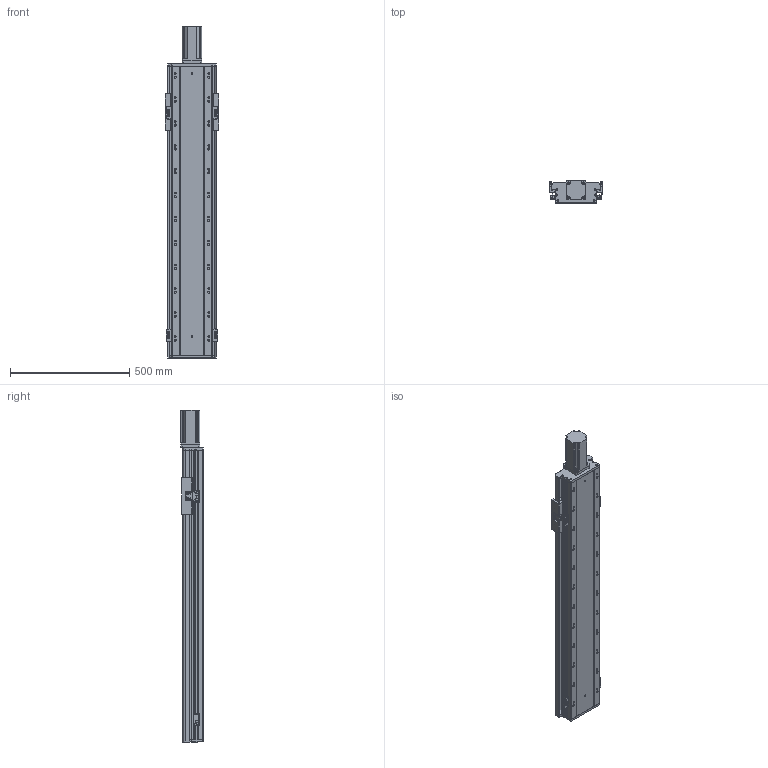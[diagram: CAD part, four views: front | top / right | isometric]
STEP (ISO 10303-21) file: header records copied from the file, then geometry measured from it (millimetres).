
FILE_DESCRIPTION (( 'STEP AP203' ), '1' );
FILE_NAME ('RY170FB-L2510-300-MK.SLDASM_900.step', '2021-02-22T08:56:51', ( '盈信电脑' ), ( '东莞市道滘镇水果街19号' ), 'SwSTEP 2.0', 'SolidWorks 2012', '' );
FILE_SCHEMA (( 'CONFIG_CONTROL_DESIGN' ));
Length unit declared in the file: millimetre
Products named in the file (16): RY170FB-300倰第菁釱-MK_900; RY170FB-綴裔啣; 滅袉蝶18-28; 滅袉蝶18-10; RY170FB-ヶ裔啣; RY170FB-L2510-300-MK.SLDASM_900; RY140FB-覜茼え; RY140直线电机感应器674光电安装座; RY140-674嫖萇耀輸; RY140FB-674嫖萇覜茼え; 750W萇儂梓袧蛌諉啣; RY170FB-300奻裔_900; 覜茼ん674; 侂狟750W萇儂ㄗ80遺ㄘ; RY170FB-铝滑块(25丝杆）
Assembly tree (20 placements, depth 3):
  RY170FB-L2510-300-MK.SLDASM_900
    RY170FB-300倰第菁釱-MK_900
    RY170FB-綴裔啣
    RY170FB-ヶ裔啣
    滅袉蝶18-28
    滅袉蝶18-10
    RY170FB-铝滑块(25丝杆）
    RY170FB-300奻裔_900
    750W萇儂梓袧蛌諉啣
    侂狟750W萇儂ㄗ80遺ㄘ
    RY140-674嫖萇耀輸  x2
      覜茼ん674
      RY140直线电机感应器674光电安装座
    RY140FB-674嫖萇覜茼え
    RY140-674嫖萇耀輸  x2
      覜茼ん674
      RY140直线电机感应器674光电安装座
    RY140FB-覜茼え
Bounding box: 225 x 93.2 x 1389.5 mm (x, y, z)
Volume: 7400811.3 mm3; surface area: 2109668.2 mm2
Topology: 21 solids, 21 shells, 1715 faces, 5001 edges, 3210 vertices
Faces by surface type: cylinder 826, plane 761, cone 128
Entity records: 45893 total; most frequent: CARTESIAN_POINT 10420, ORIENTED_EDGE 7198, DIRECTION 6981, EDGE_CURVE 3599, AXIS2_PLACEMENT_3D 2551, VERTEX_POINT 2364, LINE 1879, VECTOR 1879
